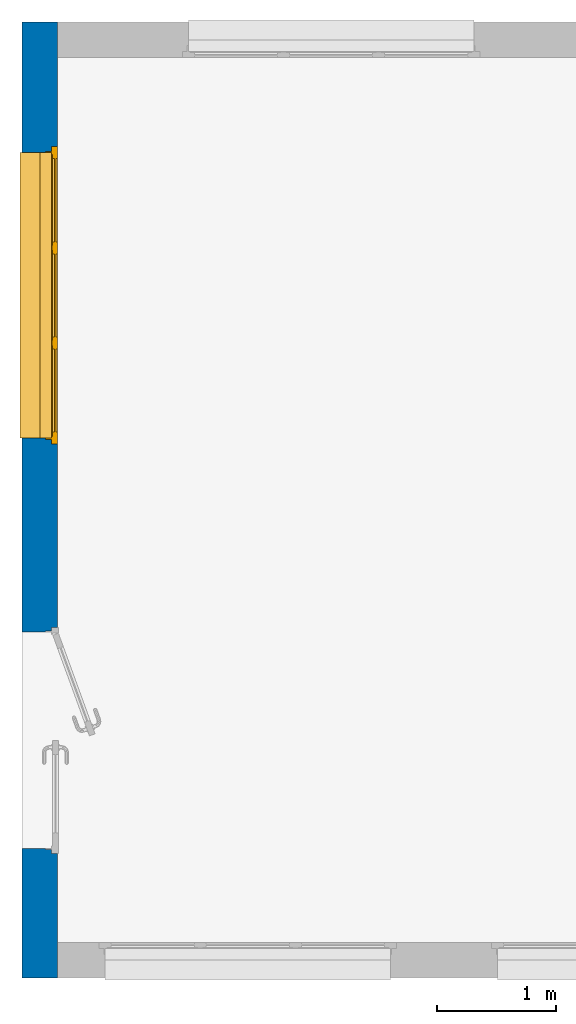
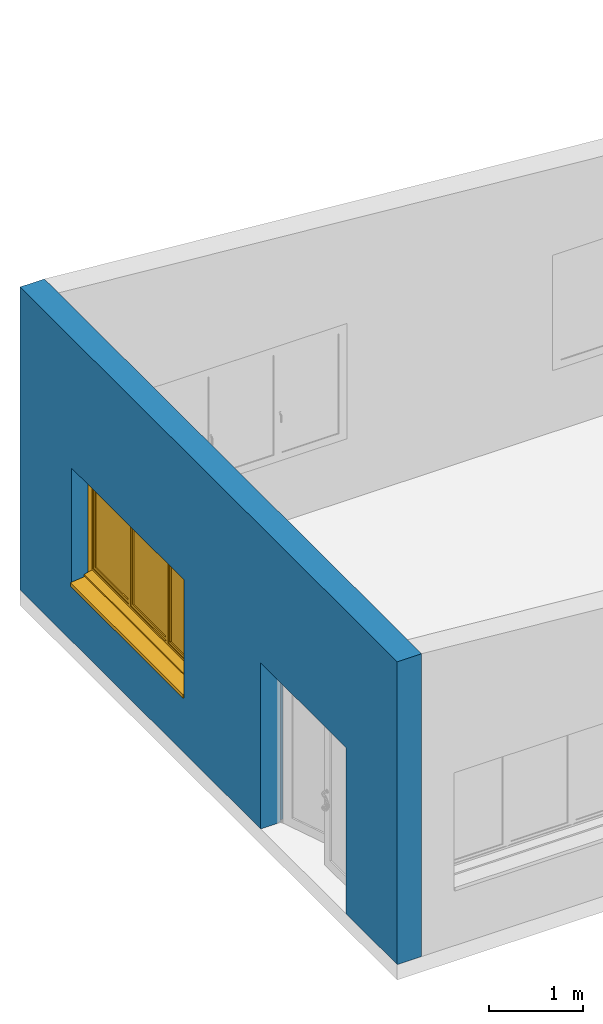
# One storey, part 2 of 8: 1 wall, 1 window, 2 openings.
"""IFC2X3 building model written with IfcOpenShell, lengths in metres."""

from ifc_helpers import new_model, entity, si_unit, converted_unit, derived_unit, direction, frame, frame_2d, origin, place, context, subcontext, project, spatial, rectangle, extrude, faceted_brep, source, transform, mapped, material, material_list, layer, layer_set, layer_usage, type_object, type_shapes, element, fill, save


model = new_model("IFC2X3")

# Units and contexts
model_context = context("Model", 3, precision=1e-05, world=origin(), true_north=direction((6.12303176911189e-17, 1.0)))
body_context = subcontext(model_context, "Body", "Model", "MODEL_VIEW")
ifc_project = project(units=[si_unit("LENGTHUNIT", "METRE"), si_unit("AREAUNIT", "SQUARE_METRE"), si_unit("VOLUMEUNIT", "CUBIC_METRE"), converted_unit("PLANEANGLEUNIT", "DEGREE", entity("IfcRatioMeasure", 0.0174532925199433), si_unit("PLANEANGLEUNIT", "RADIAN"), dimensions=[0, 0, 0, 0, 0, 0, 0]), si_unit("MASSUNIT", "GRAM", prefix="KILO"), derived_unit("MASSDENSITYUNIT", [(si_unit("MASSUNIT", "GRAM", prefix="KILO"), 1), (si_unit("LENGTHUNIT", "METRE"), -3)]), si_unit("TIMEUNIT", "SECOND"), si_unit("FREQUENCYUNIT", "HERTZ"), si_unit("THERMODYNAMICTEMPERATUREUNIT", "DEGREE_CELSIUS"), derived_unit("THERMALTRANSMITTANCEUNIT", [(si_unit("MASSUNIT", "GRAM", prefix="KILO"), 1), (si_unit("THERMODYNAMICTEMPERATUREUNIT", "KELVIN"), -1), (si_unit("TIMEUNIT", "SECOND"), -3)]), derived_unit("VOLUMETRICFLOWRATEUNIT", [(si_unit("LENGTHUNIT", "METRE"), 3), (si_unit("TIMEUNIT", "SECOND"), -1)]), si_unit("ELECTRICCURRENTUNIT", "AMPERE"), si_unit("ELECTRICVOLTAGEUNIT", "VOLT"), si_unit("POWERUNIT", "WATT"), si_unit("FORCEUNIT", "NEWTON", prefix="KILO"), si_unit("ILLUMINANCEUNIT", "LUX"), si_unit("LUMINOUSFLUXUNIT", "LUMEN"), si_unit("LUMINOUSINTENSITYUNIT", "CANDELA"), derived_unit("USERDEFINED", [(si_unit("MASSUNIT", "GRAM", prefix="KILO"), -1), (si_unit("LENGTHUNIT", "METRE"), -2), (si_unit("TIMEUNIT", "SECOND"), 3), (si_unit("LUMINOUSFLUXUNIT", "LUMEN"), 1)]), derived_unit("LINEARVELOCITYUNIT", [(si_unit("LENGTHUNIT", "METRE"), 1), (si_unit("TIMEUNIT", "SECOND"), -1)]), si_unit("PRESSUREUNIT", "PASCAL"), derived_unit("USERDEFINED", [(si_unit("LENGTHUNIT", "METRE"), -2), (si_unit("MASSUNIT", "GRAM", prefix="KILO"), 1), (si_unit("TIMEUNIT", "SECOND"), -2)])], contexts=[model_context])

# Site, building, storey
site_placement = place(None, origin())
site = spatial("IfcSite", under=ifc_project, at=site_placement, Name="Default", CompositionType="ELEMENT")
building_placement = place(site_placement, origin())
building = spatial("IfcBuilding", under=site, at=building_placement, CompositionType="ELEMENT")
storey_placement = place(building_placement, frame((0.0, 0.0, 3.3)))
storey = spatial("IfcBuildingStorey", under=building, at=storey_placement, Name="Niveau 1", CompositionType="ELEMENT", Elevation=3.3)

# Wall, openings, window
ifc_material_1 = material(Name="Maçonnerie - Voile BA")
ifc_layer_1 = layer(ifc_material_1, 0.18)
ifc_material_2 = material(Name="Maçonnerie - Isolant")
ifc_layer_2 = layer(ifc_material_2, 0.12)
ifc_layer_set = layer_set([ifc_layer_1, ifc_layer_2], Name="Mur de base:Ext. Voile BA 18 + Isolant 12")
ifc_layer_usage = layer_usage(ifc_layer_set, "AXIS2", "NEGATIVE", 0.15)
wall_type = type_object("IfcWallType", Name="Mur de base:Ext. Voile BA 18 + Isolant 12", PredefinedType="STANDARD", material=ifc_layer_set)
wall_placement = place(storey_placement, frame((-12.2339657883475, -5.03088141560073, 0.0), z_axis=(0.0, 0.0, 1.0), x_axis=(0.0, 1.0, 0.0)))
wall = element("IfcWallStandardCase", 1, at=wall_placement, inside=storey, type_object=wall_type, material=ifc_layer_usage, Name="Mur de base:Ext. Voile BA 18 + Isolant 12", ObjectType="Mur de base:Ext. Voile BA 18 + Isolant 12", context=body_context, shape_type="SweptSolid", body=[
    extrude(rectangle(XDim=8.04, YDim=0.300000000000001, at=frame_2d((4.02, 0.0), x_axis=(-1.0, 0.0))), origin(), (0.0, 0.0, 1.0), 3.94),
])
opening_1_placement = place(wall_placement, frame((1.04999999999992, 0.449999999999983, 0.0), z_axis=(0.0, 0.0, 1.0), x_axis=(0.0, -1.0, 0.0)))
element("IfcOpeningElement", 2, at=opening_1_placement, cuts=wall, Name="Mur de base:Ext. Voile BA 18 + Isolant 12", ObjectType="Opening", context=body_context, shape_type="Brep", body=[
    faceted_brep([(0.899999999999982, 0.0400000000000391, 2.15999999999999), (0.899999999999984, 1.86000000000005, 2.15999999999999), (0.607999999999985, 1.86000000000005, 2.15999999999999), (0.607999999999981, 0.0400000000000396, 2.15999999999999), (0.0, 0.0400000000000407, 0.0), (0.0, 1.86000000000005, 0.0), (0.499999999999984, 1.86000000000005, 0.0), (0.499999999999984, 1.87000000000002, 0.0), (0.549999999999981, 1.87000000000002, 0.0), (0.549999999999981, 1.90000000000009, 0.0), (0.607999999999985, 1.90000000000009, 0.0), (0.607999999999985, 1.86000000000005, 0.0), (0.899999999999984, 1.86000000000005, 0.0), (0.899999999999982, 0.0400000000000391, 0.0), (0.607999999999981, 0.0400000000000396, 0.0), (0.607999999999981, 0.0, 0.0), (0.549999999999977, 0.0, 0.0), (0.549999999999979, 0.0300000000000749, 0.0), (0.499999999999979, 0.0300000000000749, 0.0), (0.499999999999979, 0.0400000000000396, 0.0), (0.0, 0.0400000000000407, 2.15999999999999), (0.0, 1.86000000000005, 2.15999999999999), (0.499999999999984, 1.86000000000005, 2.15999999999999), (0.549999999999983, 1.87000000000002, 2.16999999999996), (0.549999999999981, 0.0300000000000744, 2.16999999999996), (0.549999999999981, 0.0, 2.20000000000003), (0.549999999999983, 1.90000000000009, 2.20000000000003), (0.499999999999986, 1.87000000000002, 2.16999999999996), (0.499999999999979, 0.0400000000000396, 2.15999999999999), (0.499999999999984, 0.0300000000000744, 2.16999999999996), (0.607999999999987, 1.90000000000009, 2.20000000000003), (0.607999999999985, 0.0, 2.20000000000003)], [[[0, 1, 2, 3]], [[4, 5, 6, 7, 8, 9, 10, 11, 12, 13, 14, 15, 16, 17, 18, 19]], [[13, 0, 3, 14]], [[20, 21, 5, 4]], [[5, 21, 22, 6]], [[1, 0, 13, 12]], [[9, 8, 23, 24, 17, 16, 25, 26]], [[8, 7, 27, 23]], [[7, 6, 22, 28, 19, 18, 29, 27]], [[11, 10, 30, 31, 15, 14, 3, 2]], [[10, 9, 26, 30]], [[24, 23, 27, 29]], [[26, 25, 31, 30]], [[17, 24, 29, 18]], [[25, 16, 15, 31]], [[1, 12, 11, 2]], [[20, 4, 19, 28]], [[21, 20, 28, 22]]]),
])
opening_2_placement = place(wall_placement, frame((4.49, 0.499999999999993, 0.720000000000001), z_axis=(0.0, 0.0, 1.0), x_axis=(0.0, -1.0, 0.0)))
opening_2 = element("IfcOpeningElement", 3, at=opening_2_placement, cuts=wall, Name="Mur de base:Ext. Voile BA 18 + Isolant 12", ObjectType="Opening", context=body_context, shape_type="Brep", body=[
    faceted_brep([(0.570000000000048, 0.0499999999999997, 0.0800000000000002), (0.549999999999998, 0.0499999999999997, 0.0800000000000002), (0.549999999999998, 0.0499999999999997, 1.53), (0.0, 0.0500000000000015, 1.53), (0.0, 0.0500000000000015, 0.0), (0.570000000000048, 0.0499999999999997, 0.0), (1.0, 2.45, 0.0800000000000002), (0.650000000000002, 2.45, 0.0800000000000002), (0.650000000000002, 2.45, 1.53), (1.0, 2.45, 1.53), (1.0, 0.0499999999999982, 0.0800000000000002), (0.649999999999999, 0.0499999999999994, 0.0800000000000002), (0.649999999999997, 0.0, 0.0800000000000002), (0.6, 0.0, 0.0800000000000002), (0.6, 0.0399999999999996, 0.0800000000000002), (0.549999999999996, 0.0399999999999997, 0.0800000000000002), (0.570000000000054, 2.45, 0.0800000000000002), (0.550000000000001, 2.45, 0.0800000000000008), (0.550000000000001, 2.46, 0.0800000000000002), (0.600000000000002, 2.46, 0.0800000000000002), (0.600000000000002, 2.5, 0.0800000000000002), (0.650000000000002, 2.5, 0.0800000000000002), (1.0, 0.0499999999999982, 1.53), (0.550000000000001, 2.45, 1.53), (0.0, 2.45, 1.53), (0.0, 2.45, 0.0), (0.570000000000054, 2.45, 0.0), (0.649999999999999, 0.0, 1.58), (0.6, 0.0, 1.58), (0.600000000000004, 2.5, 1.58), (0.600000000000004, 2.46, 1.54), (0.6, 0.0399999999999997, 1.54), (0.549999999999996, 0.0399999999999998, 1.54), (0.550000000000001, 2.46, 1.54), (0.649999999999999, 0.0499999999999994, 1.53), (0.650000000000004, 2.5, 1.58)], [[[0, 1, 2, 3, 4, 5]], [[6, 7, 8, 9]], [[10, 11, 12, 13, 14, 15, 1, 0, 16, 17, 18, 19, 20, 21, 7, 6]], [[10, 6, 9, 22]], [[3, 2, 23, 24]], [[3, 24, 25, 4]], [[4, 25, 26, 5]], [[5, 26, 16, 0]], [[12, 27, 28, 13]], [[13, 28, 29, 20, 19, 30, 31, 14]], [[14, 31, 32, 15]], [[15, 32, 33, 18, 17, 23, 2, 1]], [[11, 34, 8, 7, 21, 35, 27, 12]], [[27, 35, 29, 28]], [[30, 33, 32, 31]], [[29, 35, 21, 20]], [[19, 18, 33, 30]], [[9, 8, 34, 22]], [[24, 23, 17, 16, 26, 25]], [[22, 34, 11, 10]]]),
])
ifc_material_3 = material(Name="Fenêtre - Poignée")
ifc_material_4 = material(Name="Fenêtre - Appui")
ifc_material_5 = material(Name="Fenêtre - Cadre")
ifc_material_6 = material(Name="Fenêtre - Vitrage")
ifc_material_list_1 = material_list([ifc_material_3, ifc_material_4, ifc_material_5, ifc_material_6])
ifc_material_list_2 = material_list([ifc_material_3, ifc_material_4, ifc_material_5, ifc_material_6])
window_style = type_object("IfcWindowStyle", Name="2.40m x 1.45m - Appui Béton", ConstructionType="NOTDEFINED", OperationType="TRIPLE_PANEL_VERTICAL", ParameterTakesPrecedence=False, Sizeable=False, material=ifc_material_list_2)
shared_shape = source(origin(), body_context, "Body", "Brep", [
    faceted_brep([(0.83064600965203, -0.656000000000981, 0.702033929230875), (0.83203392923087, -0.656000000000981, 0.700646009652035), (0.83203392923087, -0.656000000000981, 0.68933230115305), (0.830667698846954, -0.656000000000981, 0.687966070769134), (0.819332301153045, -0.656000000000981, 0.687966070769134), (0.817966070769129, -0.656000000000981, 0.68933230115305), (0.817966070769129, -0.656000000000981, 0.700646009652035), (0.819353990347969, -0.656000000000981, 0.702033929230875), (0.83064600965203, -0.66891354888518, 0.702033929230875), (0.83203392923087, -0.668338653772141, 0.700646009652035), (0.83203392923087, -0.681646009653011, 0.687338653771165), (0.83203392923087, -0.681646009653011, 0.600000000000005), (0.83203392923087, -0.670332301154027, 0.600000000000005), (0.83203392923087, -0.670332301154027, 0.68265236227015), (0.83203392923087, -0.663652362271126, 0.68933230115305), (0.830667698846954, -0.663086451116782, 0.687966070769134), (0.819332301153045, -0.663086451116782, 0.687966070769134), (0.817966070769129, -0.663652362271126, 0.68933230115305), (0.817966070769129, -0.670332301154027, 0.68265236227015), (0.817966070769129, -0.670332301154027, 0.600000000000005), (0.817966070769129, -0.681646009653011, 0.600000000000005), (0.817966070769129, -0.681646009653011, 0.687338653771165), (0.817966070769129, -0.668338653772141, 0.700646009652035), (0.81935399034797, -0.66891354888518, 0.702033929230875), (0.83064600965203, -0.683033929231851, 0.687913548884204), (0.830667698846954, -0.668966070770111, 0.682086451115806), (0.819332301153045, -0.668966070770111, 0.682086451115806), (0.819353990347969, -0.683033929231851, 0.687913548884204), (0.83064600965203, -0.683033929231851, 0.600000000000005), (0.819353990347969, -0.683033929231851, 0.600000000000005), (0.819332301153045, -0.668966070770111, 0.600000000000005), (0.830667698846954, -0.668966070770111, 0.600000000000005)], [[[0, 1, 2, 3, 4, 5, 6, 7]], [[1, 0, 8, 9]], [[2, 1, 9, 10, 11, 12, 13, 14]], [[3, 2, 14, 15]], [[4, 3, 15, 16]], [[5, 4, 16, 17]], [[6, 5, 17, 18, 19, 20, 21, 22]], [[7, 6, 22, 23]], [[0, 7, 23, 8]], [[9, 8, 24, 10]], [[15, 14, 13, 25]], [[16, 15, 25, 26]], [[17, 16, 26, 18]], [[23, 22, 21, 27]], [[8, 23, 27, 24]], [[28, 29, 20, 19, 30, 31, 12, 11]], [[10, 24, 28, 11]], [[25, 13, 12, 31]], [[26, 25, 31, 30]], [[18, 26, 30, 19]], [[27, 21, 20, 29]], [[24, 27, 29, 28]]]),
    faceted_brep([(0.832000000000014, -0.656000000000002, 0.720000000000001), (0.817999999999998, -0.656000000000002, 0.720000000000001), (0.812999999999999, -0.656000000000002, 0.715000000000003), (0.812999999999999, -0.656000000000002, 0.644999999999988), (0.817999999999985, -0.656000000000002, 0.640000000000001), (0.832000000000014, -0.656000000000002, 0.640000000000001), (0.837, -0.656000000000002, 0.644999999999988), (0.837, -0.656000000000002, 0.715000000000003), (0.832000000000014, -0.650000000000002, 0.720000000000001), (0.837, -0.650000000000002, 0.715000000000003), (0.837, -0.650000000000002, 0.644999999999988), (0.832000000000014, -0.650000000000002, 0.640000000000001), (0.817999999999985, -0.650000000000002, 0.640000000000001), (0.812999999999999, -0.650000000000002, 0.644999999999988), (0.812999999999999, -0.650000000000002, 0.715000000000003), (0.817999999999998, -0.650000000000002, 0.720000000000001)], [[[0, 1, 2, 3, 4, 5, 6, 7]], [[8, 9, 10, 11, 12, 13, 14, 15]], [[1, 0, 8, 15]], [[2, 1, 15, 14]], [[3, 2, 14, 13]], [[4, 3, 13, 12]], [[5, 4, 12, 11]], [[6, 5, 11, 10]], [[7, 6, 10, 9]], [[0, 7, 9, 8]]]),
    faceted_brep([(1.68064600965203, -0.656000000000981, 0.702033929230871), (1.68203392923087, -0.656000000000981, 0.700646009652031), (1.68203392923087, -0.656000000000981, 0.689332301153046), (1.68066769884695, -0.656000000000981, 0.68796607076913), (1.66933230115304, -0.656000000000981, 0.68796607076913), (1.66796607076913, -0.656000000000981, 0.689332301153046), (1.66796607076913, -0.656000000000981, 0.700646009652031), (1.66935399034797, -0.656000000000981, 0.702033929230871), (1.68064600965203, -0.66891354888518, 0.702033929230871), (1.68203392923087, -0.668338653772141, 0.700646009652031), (1.68203392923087, -0.681646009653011, 0.687338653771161), (1.68203392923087, -0.681646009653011, 0.600000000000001), (1.68203392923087, -0.670332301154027, 0.600000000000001), (1.68203392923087, -0.670332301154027, 0.682652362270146), (1.68203392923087, -0.663652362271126, 0.689332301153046), (1.68066769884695, -0.663086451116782, 0.68796607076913), (1.66933230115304, -0.663086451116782, 0.68796607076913), (1.66796607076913, -0.663652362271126, 0.689332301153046), (1.66796607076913, -0.670332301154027, 0.682652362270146), (1.66796607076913, -0.670332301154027, 0.600000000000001), (1.66796607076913, -0.681646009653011, 0.600000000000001), (1.66796607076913, -0.681646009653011, 0.687338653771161), (1.66796607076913, -0.668338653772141, 0.700646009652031), (1.66935399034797, -0.66891354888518, 0.702033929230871), (1.68064600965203, -0.683033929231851, 0.6879135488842), (1.68066769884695, -0.668966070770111, 0.682086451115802), (1.66933230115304, -0.668966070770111, 0.682086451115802), (1.66935399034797, -0.683033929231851, 0.6879135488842), (1.68064600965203, -0.683033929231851, 0.600000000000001), (1.66935399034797, -0.683033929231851, 0.600000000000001), (1.66933230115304, -0.668966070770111, 0.600000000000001), (1.68066769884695, -0.668966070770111, 0.600000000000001)], [[[0, 1, 2, 3, 4, 5, 6, 7]], [[1, 0, 8, 9]], [[2, 1, 9, 10, 11, 12, 13, 14]], [[3, 2, 14, 15]], [[4, 3, 15, 16]], [[5, 4, 16, 17]], [[6, 5, 17, 18, 19, 20, 21, 22]], [[7, 6, 22, 23]], [[0, 7, 23, 8]], [[9, 8, 24, 10]], [[15, 14, 13, 25]], [[16, 15, 25, 26]], [[17, 16, 26, 18]], [[23, 22, 21, 27]], [[8, 23, 27, 24]], [[28, 29, 20, 19, 30, 31, 12, 11]], [[10, 24, 28, 11]], [[25, 13, 12, 31]], [[26, 25, 31, 30]], [[18, 26, 30, 19]], [[27, 21, 20, 29]], [[24, 27, 29, 28]]]),
    faceted_brep([(1.68200000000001, -0.656000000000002, 0.719999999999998), (1.668, -0.656000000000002, 0.719999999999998), (1.663, -0.656000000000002, 0.714999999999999), (1.663, -0.656000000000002, 0.644999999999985), (1.66799999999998, -0.656000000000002, 0.639999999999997), (1.68200000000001, -0.656000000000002, 0.639999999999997), (1.687, -0.656000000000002, 0.644999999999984), (1.687, -0.656000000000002, 0.714999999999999), (1.68200000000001, -0.650000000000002, 0.719999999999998), (1.687, -0.650000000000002, 0.714999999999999), (1.687, -0.650000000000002, 0.644999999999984), (1.68200000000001, -0.650000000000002, 0.639999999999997), (1.66799999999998, -0.650000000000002, 0.639999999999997), (1.663, -0.650000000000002, 0.644999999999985), (1.663, -0.650000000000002, 0.714999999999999), (1.668, -0.650000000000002, 0.719999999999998)], [[[0, 1, 2, 3, 4, 5, 6, 7]], [[8, 9, 10, 11, 12, 13, 14, 15]], [[1, 0, 8, 15]], [[2, 1, 15, 14]], [[3, 2, 14, 13]], [[4, 3, 13, 12]], [[5, 4, 12, 11]], [[6, 5, 11, 10]], [[7, 6, 10, 9]], [[0, 7, 9, 8]]]),
    faceted_brep([(0.050000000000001, -0.569999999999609, 0.0799999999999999), (0.0500000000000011, -0.519999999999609, 0.0799999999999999), (0.0500000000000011, -0.519999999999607, 0.0650000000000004), (0.0500000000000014, -0.334999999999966, 0.0455557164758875), (0.0500000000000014, -0.334999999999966, 0.0), (0.050000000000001, -0.569999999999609, 0.0), (2.45, -0.569999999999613, 0.0799999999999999), (2.45, -0.569999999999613, 0.0), (2.45, -0.33499999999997, 0.0), (2.45, -0.33499999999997, 0.0455557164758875), (2.45, -0.519999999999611, 0.0650000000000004), (2.45, -0.519999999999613, 0.0799999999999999)], [[[0, 1, 2, 3, 4, 5]], [[6, 7, 8, 9, 10, 11]], [[1, 0, 6, 11]], [[2, 1, 11, 10]], [[3, 2, 10, 9]], [[4, 3, 9, 8]], [[5, 4, 8, 7]], [[0, 5, 7, 6]]]),
    faceted_brep([(1.65, -0.610000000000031, 1.53), (1.65, -0.650000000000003, 1.53), (1.65, -0.650000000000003, 0.13), (1.65, -0.610000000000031, 0.13), (0.849999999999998, -0.65, 0.13), (0.849999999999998, -0.610000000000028, 0.13), (0.849999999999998, -0.65, 1.53), (0.899999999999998, -0.65, 0.18), (0.899999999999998, -0.65, 1.48), (1.6, -0.650000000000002, 1.48), (1.6, -0.650000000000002, 0.18), (0.849999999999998, -0.610000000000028, 1.53), (1.6, -0.61000000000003, 0.179999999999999), (1.6, -0.61000000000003, 1.48), (0.899999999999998, -0.610000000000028, 1.48), (0.899999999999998, -0.610000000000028, 0.18)], [[[0, 1, 2, 3]], [[3, 2, 4, 5]], [[2, 1, 6, 4], [7, 8, 9, 10]], [[5, 4, 6, 11]], [[5, 11, 0, 3], [12, 13, 14, 15]], [[9, 13, 12, 10]], [[10, 12, 15, 7]], [[7, 15, 14, 8]], [[11, 6, 1, 0]], [[8, 14, 13, 9]]]),
    faceted_brep([(0.849999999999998, -0.610000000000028, 1.53), (0.849999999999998, -0.650000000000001, 1.53), (0.849999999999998, -0.650000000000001, 0.13), (0.849999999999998, -0.610000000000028, 0.13), (0.0499999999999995, -0.649999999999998, 0.13), (0.0499999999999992, -0.610000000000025, 0.13), (0.0499999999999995, -0.649999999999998, 1.53), (0.0999999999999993, -0.649999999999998, 0.18), (0.0999999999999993, -0.649999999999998, 1.48), (0.799999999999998, -0.650000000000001, 1.48), (0.799999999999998, -0.650000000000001, 0.18), (0.0499999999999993, -0.610000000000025, 1.53), (0.799999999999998, -0.610000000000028, 0.18), (0.799999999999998, -0.610000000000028, 1.48), (0.0999999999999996, -0.610000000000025, 1.48), (0.0999999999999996, -0.610000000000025, 0.18)], [[[0, 1, 2, 3]], [[3, 2, 4, 5]], [[2, 1, 6, 4], [7, 8, 9, 10]], [[5, 4, 6, 11]], [[5, 11, 0, 3], [12, 13, 14, 15]], [[9, 13, 12, 10]], [[10, 12, 15, 7]], [[7, 15, 14, 8]], [[11, 6, 1, 0]], [[8, 14, 13, 9]]]),
    faceted_brep([(1.7, -0.624000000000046, 0.18), (1.7, -0.624000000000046, 1.48), (2.4, -0.624000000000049, 1.48), (2.4, -0.624000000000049, 0.18), (1.7, -0.636000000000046, 0.18), (1.7, -0.636000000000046, 1.48), (2.4, -0.636000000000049, 1.48), (2.4, -0.636000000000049, 0.18)], [[[0, 1, 2, 3]], [[1, 0, 4, 5]], [[3, 2, 6, 7]], [[0, 3, 7, 4]], [[2, 1, 5, 6]], [[4, 7, 6, 5]]]),
    faceted_brep([(0.799999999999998, -0.624000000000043, 0.18), (0.799999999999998, -0.624000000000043, 1.48), (0.799999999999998, -0.636000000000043, 1.48), (0.799999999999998, -0.636000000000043, 0.18), (0.0999999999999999, -0.624000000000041, 0.18), (0.0999999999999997, -0.636000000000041, 0.18), (0.0999999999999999, -0.624000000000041, 1.48), (0.0999999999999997, -0.636000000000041, 1.48)], [[[0, 1, 2, 3]], [[4, 0, 3, 5]], [[6, 4, 5, 7]], [[7, 5, 3, 2]], [[1, 6, 7, 2]], [[6, 1, 0, 4]]]),
    faceted_brep([(1.6, -0.624000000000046, 0.18), (1.6, -0.624000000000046, 1.48), (1.6, -0.636000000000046, 1.48), (1.6, -0.636000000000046, 0.18), (0.899999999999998, -0.624000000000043, 0.18), (0.899999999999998, -0.636000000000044, 0.18), (0.899999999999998, -0.624000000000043, 1.48), (0.899999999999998, -0.636000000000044, 1.48)], [[[0, 1, 2, 3]], [[4, 0, 3, 5]], [[6, 4, 5, 7]], [[1, 6, 7, 2]], [[7, 5, 3, 2]], [[6, 1, 0, 4]]]),
    faceted_brep([(1.7, -0.610000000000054, 1.48), (1.7, -0.650000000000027, 1.48), (1.7, -0.650000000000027, 0.18), (1.7, -0.610000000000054, 0.18), (2.4, -0.650000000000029, 0.18), (2.4, -0.610000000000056, 0.18), (2.4, -0.650000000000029, 1.48), (2.45, -0.65000000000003, 0.13), (2.45, -0.65000000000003, 1.53), (1.65, -0.650000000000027, 1.53), (1.65, -0.650000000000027, 0.13), (2.4, -0.610000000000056, 1.48), (1.65, -0.610000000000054, 0.13), (1.65, -0.610000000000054, 1.53), (2.45, -0.610000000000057, 1.53), (2.45, -0.610000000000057, 0.13)], [[[0, 1, 2, 3]], [[3, 2, 4, 5]], [[2, 1, 6, 4], [7, 8, 9, 10]], [[5, 4, 6, 11]], [[5, 11, 0, 3], [12, 13, 14, 15]], [[9, 13, 12, 10]], [[10, 12, 15, 7]], [[7, 15, 14, 8]], [[11, 6, 1, 0]], [[8, 14, 13, 9]]], outer=[[True], [True], [False, True], [True], [False, True], [True], [True], [True], [True], [True]]),
    faceted_brep([(0.0, -0.650000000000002, 0.0799999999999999), (0.0, -0.600000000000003, 0.0799999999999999), (0.0499999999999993, -0.600000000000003, 0.0799999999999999), (0.0499999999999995, -0.51500000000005, 0.0800000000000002), (2.45, -0.515000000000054, 0.0799999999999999), (2.45, -0.600000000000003, 0.0800000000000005), (2.5, -0.600000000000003, 0.0799999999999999), (2.5, -0.650000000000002, 0.0799999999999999), (0.0, -0.650000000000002, 1.58), (0.0, -0.600000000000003, 1.58), (2.5, -0.600000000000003, 1.58), (2.45, -0.600000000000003, 0.119376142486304), (0.0499999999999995, -0.600000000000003, 0.119376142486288), (0.0649999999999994, -0.600000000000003, 1.515), (0.0649999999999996, -0.600000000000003, 0.145), (2.435, -0.600000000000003, 0.145), (2.435, -0.600000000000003, 1.515), (0.0499999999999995, -0.50500000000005, 0.0939209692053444), (0.0499999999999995, -0.50500000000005, 0.0749999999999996), (0.0499999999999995, -0.51500000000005, 0.0749999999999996), (2.45, -0.515000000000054, 0.0749999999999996), (2.45, -0.505000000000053, 0.0749999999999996), (2.45, -0.505000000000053, 0.0939209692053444), (2.5, -0.650000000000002, 1.58), (2.45, -0.650000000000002, 1.53), (2.45, -0.650000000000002, 0.13), (0.0499999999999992, -0.65, 0.13), (0.0499999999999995, -0.650000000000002, 1.53), (0.0649999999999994, -0.610000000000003, 1.515), (0.0649999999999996, -0.610000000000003, 0.145), (2.435, -0.610000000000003, 0.145), (2.435, -0.610000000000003, 1.515), (2.45, -0.610000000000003, 1.53), (0.0499999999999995, -0.610000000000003, 1.53), (0.0499999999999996, -0.610000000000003, 0.13), (2.45, -0.610000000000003, 0.13)], [[[0, 1, 2, 3, 4, 5, 6, 7]], [[1, 0, 8, 9]], [[1, 9, 10, 6, 5, 11, 12, 2], [13, 14, 15, 16]], [[12, 17, 18, 19, 3, 2]], [[3, 19, 20, 4]], [[4, 20, 21, 22, 11, 5]], [[6, 10, 23, 7]], [[0, 7, 23, 8], [24, 25, 26, 27]], [[13, 28, 29, 14]], [[29, 30, 15, 14]], [[31, 16, 15, 30]], [[17, 12, 11, 22]], [[32, 33, 34, 35], [28, 31, 30, 29]], [[34, 33, 27, 26]], [[26, 25, 35, 34]], [[24, 32, 35, 25]], [[18, 17, 22, 21]], [[19, 18, 21, 20]], [[13, 16, 31, 28]], [[33, 32, 24, 27]], [[10, 9, 8, 23]]]),
    faceted_brep([(0.0499999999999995, -0.550000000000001, 0.0799999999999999), (0.0499999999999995, -0.600000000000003, 0.0799999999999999), (0.039999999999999, -0.600000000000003, 0.0799999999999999), (0.039999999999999, -0.550000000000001, 0.0799999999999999), (0.0499999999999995, -0.550000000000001, 1.53), (0.0499999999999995, -0.600000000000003, 1.53), (2.45, -0.600000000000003, 1.53), (2.45, -0.600000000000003, 0.0799999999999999), (2.46, -0.600000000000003, 0.0800000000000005), (2.46, -0.600000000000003, 1.54), (0.039999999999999, -0.600000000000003, 1.54), (0.039999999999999, -0.550000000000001, 1.54), (2.46, -0.550000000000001, 1.54), (2.46, -0.550000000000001, 0.0799999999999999), (2.45, -0.550000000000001, 0.0800000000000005), (2.45, -0.550000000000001, 1.53)], [[[0, 1, 2, 3]], [[1, 0, 4, 5]], [[2, 1, 5, 6, 7, 8, 9, 10]], [[3, 2, 10, 11]], [[0, 3, 11, 12, 13, 14, 15, 4]], [[6, 15, 14, 7]], [[14, 13, 8, 7]], [[12, 9, 8, 13]], [[5, 4, 15, 6]], [[11, 10, 9, 12]]]),
    faceted_brep([(1.67, -0.602000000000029, 1.515), (1.63, -0.602000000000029, 1.515), (1.63, -0.610000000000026, 1.515), (1.67, -0.610000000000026, 1.515), (1.67, -0.602000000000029, 0.145), (1.63, -0.602000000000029, 0.145), (1.63, -0.610000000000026, 0.145), (1.67, -0.610000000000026, 0.145)], [[[0, 1, 2, 3]], [[1, 0, 4, 5]], [[2, 1, 5, 6]], [[3, 2, 6, 7]], [[0, 3, 7, 4]], [[4, 7, 6, 5]]]),
    faceted_brep([(0.870000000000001, -0.602000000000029, 0.145), (0.870000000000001, -0.610000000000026, 0.145), (0.83, -0.610000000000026, 0.145), (0.83, -0.602000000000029, 0.145), (0.83, -0.602000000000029, 1.515), (0.870000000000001, -0.602000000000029, 1.515), (0.83, -0.610000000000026, 1.515), (0.870000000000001, -0.610000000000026, 1.515)], [[[0, 1, 2, 3]], [[4, 5, 0, 3]], [[6, 4, 3, 2]], [[7, 6, 2, 1]], [[5, 7, 1, 0]], [[5, 4, 6, 7]]]),
])
type_shapes(window_style, [shared_shape])
window_placement = place(opening_2_placement, frame((0.0, 0.0, 0.0), z_axis=(0.0, 0.0, 1.0), x_axis=(0.0, 1.0, 0.0)))
window = element("IfcWindow", 4, at=window_placement, inside=storey, type_object=window_style, material=ifc_material_list_1, Name="3 Vantaux - Droits:2.40m x 1.45m - Appui Béton", ObjectType="2.40m x 1.45m - Appui Béton", OverallHeight=1.58, OverallWidth=2.5, context=body_context, shape_type="MappedRepresentation", body=[
    mapped(shared_shape, transform((0.0, 0.0, 0.0), scale=1.0)),
])
fill(opening_2, window)

save(model, "model.ifc")
